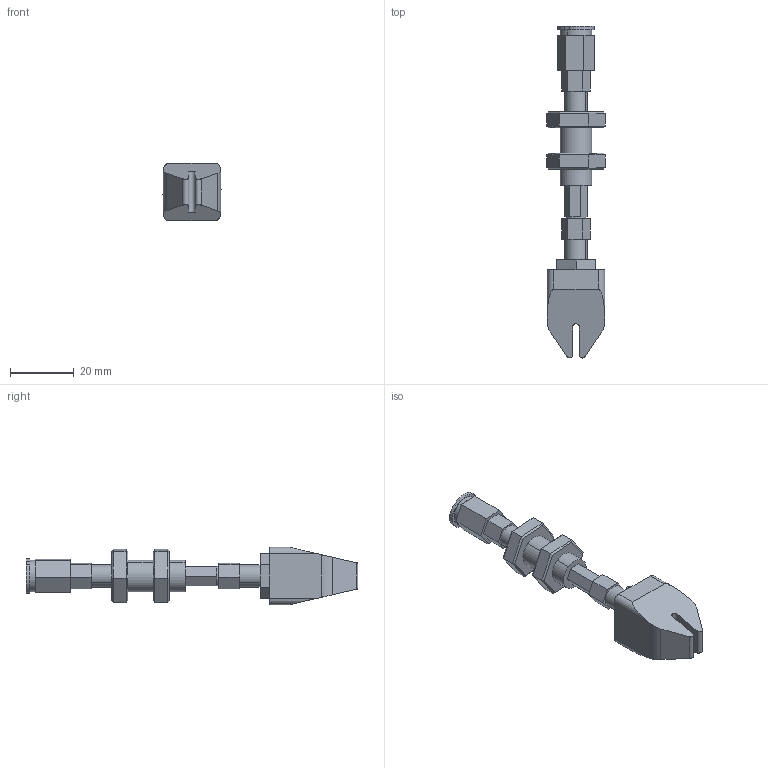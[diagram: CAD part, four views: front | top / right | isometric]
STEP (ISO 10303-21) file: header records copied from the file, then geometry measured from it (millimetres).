
FILE_DESCRIPTION (( 'STEP AP214' ), '1' );
FILE_NAME ('GBS-2B-S01.STEP', '2019-12-04T09:01:37', ( '微软用户' ), ( '微软中国' ), 'SwSTEP 2.0', 'SolidWorks 2016', '' );
FILE_SCHEMA (( 'AUTOMOTIVE_DESIGN' ));
Length unit declared in the file: millimetre
Products named in the file (1): GBS-2B-S01
Bounding box: 18.42 x 104.13 x 18 mm (x, y, z)
Volume: 11383.9 mm3; surface area: 7643 mm2
Topology: 3 solids, 3 shells, 160 faces, 366 edges, 230 vertices
Faces by surface type: plane 109, cylinder 43, cone 8
Entity records: 6312 total; most frequent: CARTESIAN_POINT 847, DIRECTION 760, ORIENTED_EDGE 732, EDGE_CURVE 366, VECTOR 266, LINE 266, AXIS2_PLACEMENT_3D 247, VERTEX_POINT 230
